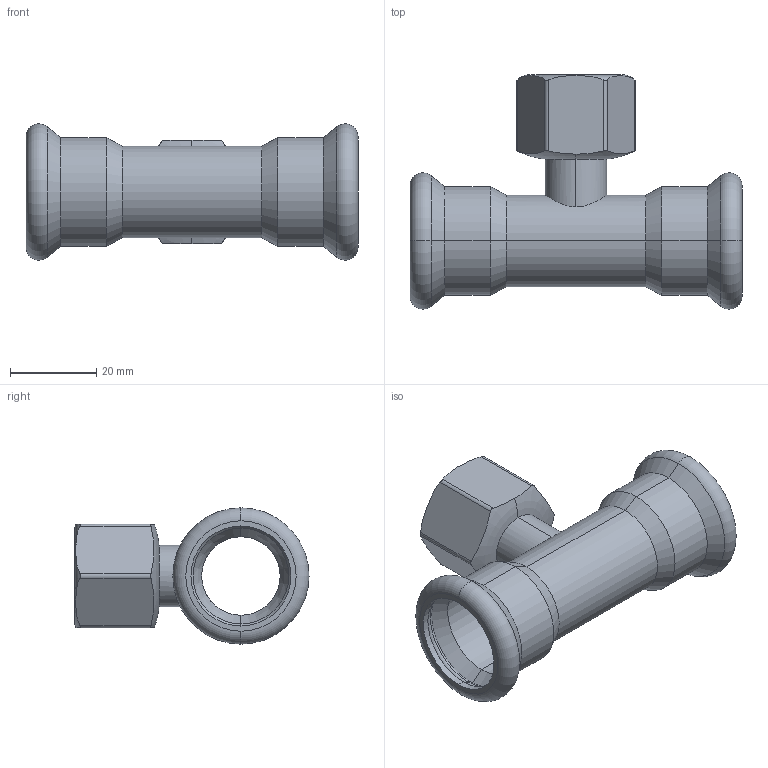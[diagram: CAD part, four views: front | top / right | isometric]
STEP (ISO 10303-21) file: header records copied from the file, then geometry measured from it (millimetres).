
FILE_DESCRIPTION (( 'STEP AP214' ), '1' );
FILE_NAME ('T22150F.STEP', '2025-08-17T14:10:18', ( '' ), ( '' ), 'SwSTEP 2.0', 'SolidWorks 2020', '' );
FILE_SCHEMA (( 'AUTOMOTIVE_DESIGN' ));
Length unit declared in the file: millimetre
Products named in the file (1): T22150F
Bounding box: 77 x 54.3 x 31.6 mm (x, y, z)
Volume: 13679.7 mm3; surface area: 17828.7 mm2
Topology: 3 solids, 3 shells, 104 faces, 249 edges, 150 vertices
Faces by surface type: cylinder 51, torus 20, cone 18, plane 12, bspline 3
Entity records: 6369 total; most frequent: CARTESIAN_POINT 2918, ORIENTED_EDGE 498, DIRECTION 454, EDGE_CURVE 249, AXIS2_PLACEMENT_3D 188, VERTEX_POINT 150, EDGE_LOOP 111, UNCERTAINTY_MEASURE_WITH_UNIT 109
